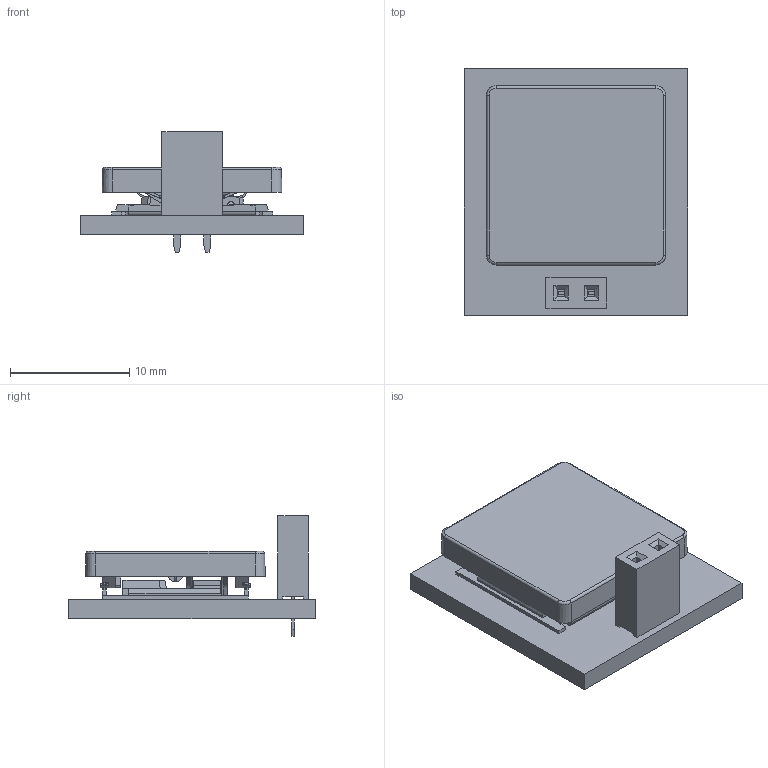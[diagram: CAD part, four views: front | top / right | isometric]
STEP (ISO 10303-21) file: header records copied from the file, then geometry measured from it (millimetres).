
FILE_DESCRIPTION(('KiCad electronic assembly'),'2;1');
FILE_NAME('Leverless Controller v2 - Thumb PCB.step', '2025-01-23T17:47:38',('Pcbnew'),('Kicad'), 'Open CASCADE STEP processor 7.8','KiCad to STEP converter','Unknown' );
FILE_SCHEMA(('AUTOMOTIVE_DESIGN { 1 0 10303 214 1 1 1 1 }'));
Length unit declared in the file: millimetre
Products named in the file (6): Leverless Controller v2 - Thumb PCB 1; PinSocket_1x02_P2.54mm_Vertical; PinSocket_1x02_P254mm_Vertical; PG1316S--è£éä½; PG1316S--װƤͥ; _autosave-Leverless Controller v2 - Thumb PCB_PCB
Assembly tree (5 placements, depth 3):
  Leverless Controller v2 - Thumb PCB 1
    PinSocket_1x02_P2.54mm_Vertical
      PinSocket_1x02_P254mm_Vertical
    PG1316S--è£éä½
      PG1316S--װƤͥ
    _autosave-Leverless Controller v2 - Thumb PCB_PCB
Bounding box: 18.73 x 20.66 x 10.1 mm (x, y, z)
Volume: 1037.6 mm3; surface area: 2583.8 mm2
Topology: 11 solids, 13 shells, 841 faces, 2357 edges, 1550 vertices
Faces by surface type: plane 569, cylinder 256, cone 12, torus 4
Full cylindrical faces by diameter (mm): 1 x3, 1.2 x1
Entity records: 27779 total; most frequent: CARTESIAN_POINT 5092, ORIENTED_EDGE 4714, DIRECTION 4461, EDGE_CURVE 2357, LINE 1787, VECTOR 1787, VERTEX_POINT 1550, AXIS2_PLACEMENT_3D 1337
